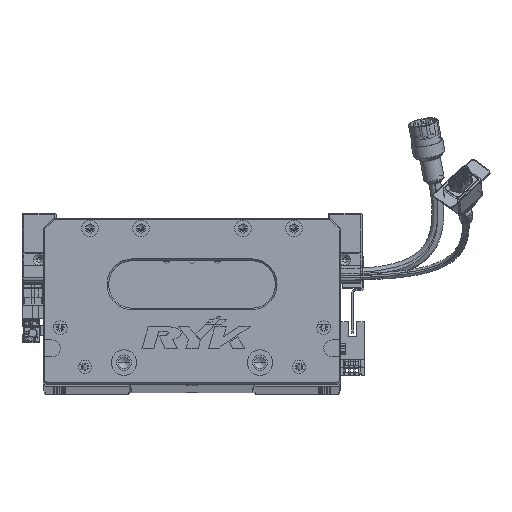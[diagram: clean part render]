
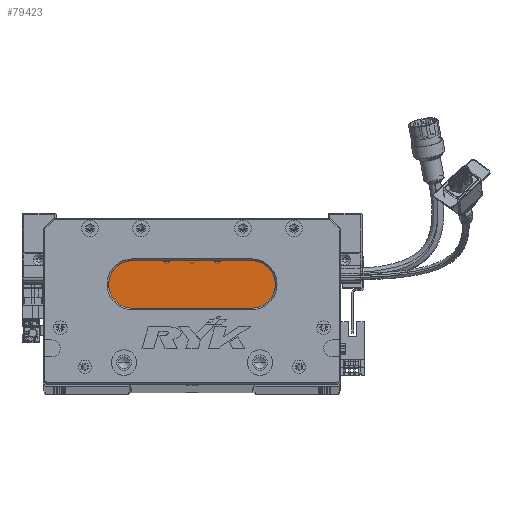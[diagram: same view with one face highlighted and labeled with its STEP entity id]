
A CAD part, top view. The second image highlights one B-rep face of the part: STEP entity #79423.
In plain terms, the highlighted planar face has unit normal (0, 0, 1) as drawn and (0, 0, -1) by its records, which use the part's own axes.
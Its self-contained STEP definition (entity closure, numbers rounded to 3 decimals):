
#935 = DIRECTION ( 'NONE',  ( 0., 0., -1. ) ) ;
#2007 = VECTOR ( 'NONE', #110597, 1000. ) ;
#11328 = DIRECTION ( 'NONE',  ( -1., 0., 0. ) ) ;
#20060 = CARTESIAN_POINT ( 'NONE',  ( 52.5, 59., 18. ) ) ;
#21600 = AXIS2_PLACEMENT_3D ( 'NONE', #127475, #27888, #57352 ) ;
#24173 = EDGE_CURVE ( 'NONE', #25991, #49895, #79209, .T. ) ;
#25991 = VERTEX_POINT ( 'NONE', #101401 ) ;
#27254 = CARTESIAN_POINT ( 'NONE',  ( 52.5, 59., 18. ) ) ;
#27888 = DIRECTION ( 'NONE',  ( 0., 0., -1. ) ) ;
#29583 = DIRECTION ( 'NONE',  ( 0., 0., -1. ) ) ;
#39181 = EDGE_CURVE ( 'NONE', #67810, #64673, #70381, .T. ) ;
#39497 = DIRECTION ( 'NONE',  ( -1., 0., 0. ) ) ;
#42223 = ORIENTED_EDGE ( 'NONE', *, *, #24173, .T. ) ;
#49895 = VERTEX_POINT ( 'NONE', #79159 ) ;
#50488 = CIRCLE ( 'NONE', #91708, 14. ) ;
#52272 = AXIS2_PLACEMENT_3D ( 'NONE', #70611, #935, #11328 ) ;
#57352 = DIRECTION ( 'NONE',  ( -1., 0., 0. ) ) ;
#57538 = EDGE_CURVE ( 'NONE', #49895, #64171, #88013, .T. ) ;
#64171 = VERTEX_POINT ( 'NONE', #117090 ) ;
#64673 = VERTEX_POINT ( 'NONE', #85744 ) ;
#66472 = EDGE_LOOP ( 'NONE', ( #42223, #84076, #69567, #113536, #92285 ) ) ;
#67810 = VERTEX_POINT ( 'NONE', #95958 ) ;
#69567 = ORIENTED_EDGE ( 'NONE', *, *, #112276, .T. ) ;
#70381 = CIRCLE ( 'NONE', #92574, 14. ) ;
#70611 = CARTESIAN_POINT ( 'NONE',  ( 122.5, 59., 18. ) ) ;
#70673 = CARTESIAN_POINT ( 'NONE',  ( 122.5, 45., 18. ) ) ;
#72538 = FACE_OUTER_BOUND ( 'NONE', #66472, .T. ) ;
#79159 = CARTESIAN_POINT ( 'NONE',  ( 122.5, 45., 18. ) ) ;
#79209 = CIRCLE ( 'NONE', #21600, 14. ) ;
#79384 = DIRECTION ( 'NONE',  ( -1., 0., 0. ) ) ;
#79423 = ADVANCED_FACE ( 'NONE', ( #72538 ), #99280, .T. ) ;
#84076 = ORIENTED_EDGE ( 'NONE', *, *, #57538, .T. ) ;
#85744 = CARTESIAN_POINT ( 'NONE',  ( 52.5, 73., 18. ) ) ;
#86183 = DIRECTION ( 'NONE',  ( -1., 0., 0. ) ) ;
#87250 = LINE ( 'NONE', #100619, #2007 ) ;
#88013 = LINE ( 'NONE', #70673, #100489 ) ;
#91708 = AXIS2_PLACEMENT_3D ( 'NONE', #20060, #29583, #79384 ) ;
#92285 = ORIENTED_EDGE ( 'NONE', *, *, #106443, .T. ) ;
#92574 = AXIS2_PLACEMENT_3D ( 'NONE', #27254, #127271, #86183 ) ;
#95958 = CARTESIAN_POINT ( 'NONE',  ( 38.5, 59., 18. ) ) ;
#99280 = PLANE ( 'NONE',  #52272 ) ;
#100489 = VECTOR ( 'NONE', #39497, 1000. ) ;
#100619 = CARTESIAN_POINT ( 'NONE',  ( 122.5, 73., 18. ) ) ;
#101401 = CARTESIAN_POINT ( 'NONE',  ( 122.5, 73., 18. ) ) ;
#106443 = EDGE_CURVE ( 'NONE', #64673, #25991, #87250, .T. ) ;
#110597 = DIRECTION ( 'NONE',  ( 1., 0., 0. ) ) ;
#112276 = EDGE_CURVE ( 'NONE', #64171, #67810, #50488, .T. ) ;
#113536 = ORIENTED_EDGE ( 'NONE', *, *, #39181, .T. ) ;
#117090 = CARTESIAN_POINT ( 'NONE',  ( 52.5, 45., 18. ) ) ;
#127271 = DIRECTION ( 'NONE',  ( 0., 0., -1. ) ) ;
#127475 = CARTESIAN_POINT ( 'NONE',  ( 122.5, 59., 18. ) ) ;
